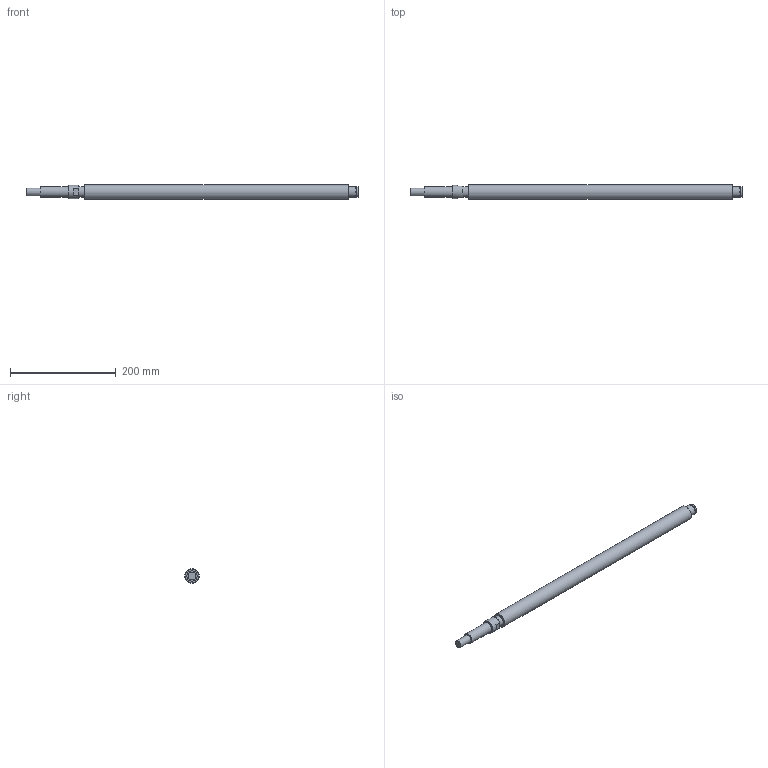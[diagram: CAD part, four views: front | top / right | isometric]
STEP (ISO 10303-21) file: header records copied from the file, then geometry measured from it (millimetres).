
FILE_DESCRIPTION((''),'2;1');
FILE_NAME('D:\製品 (図面)\カタログ用3D\ネジ関連\STEP形式\JK\JK28.stp','2010-06-11T10:55:49',('Tsuchiya'),(''),'Autodesk Inventor 10','Autodesk Inventor 10','');
FILE_SCHEMA(('AUTOMOTIVE_DESIGN { 1 0 10303 214 1 1 1 1 }'));
Length unit declared in the file: millimetre
Products named in the file (1): JK28
Bounding box: 629 x 28 x 28 mm (x, y, z)
Volume: 347944.1 mm3; surface area: 53609.6 mm2
Topology: 1 solids, 1 shells, 21 faces, 36 edges, 24 vertices
Faces by surface type: plane 13, cylinder 8
Full cylindrical faces by diameter (mm): 15 x1, 19 x1, 20 x4, 25 x1, 28 x1
Entity records: 483 total; most frequent: DIRECTION 90, CARTESIAN_POINT 72, ORIENTED_EDGE 54, AXIS2_PLACEMENT_3D 41, EDGE_LOOP 36, EDGE_CURVE 27, VERTEX_POINT 23, FACE_OUTER_BOUND 21
